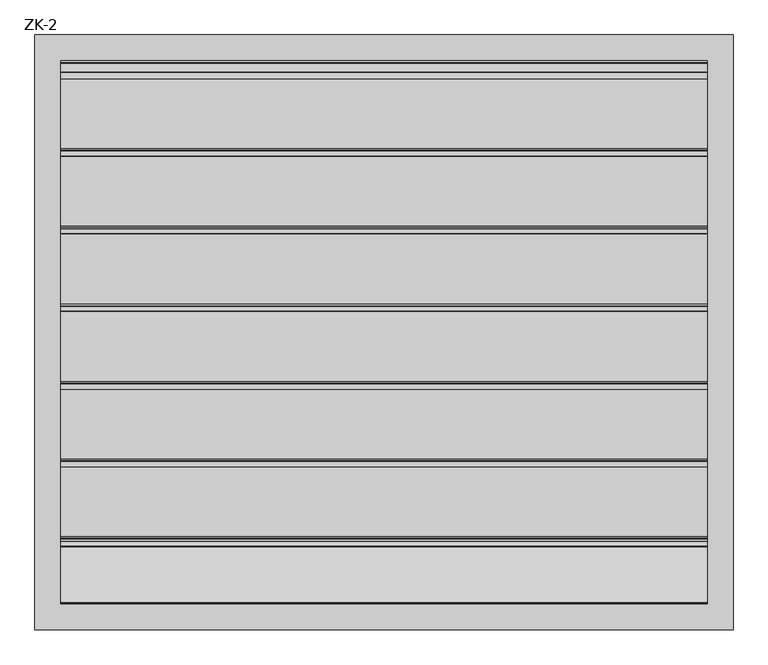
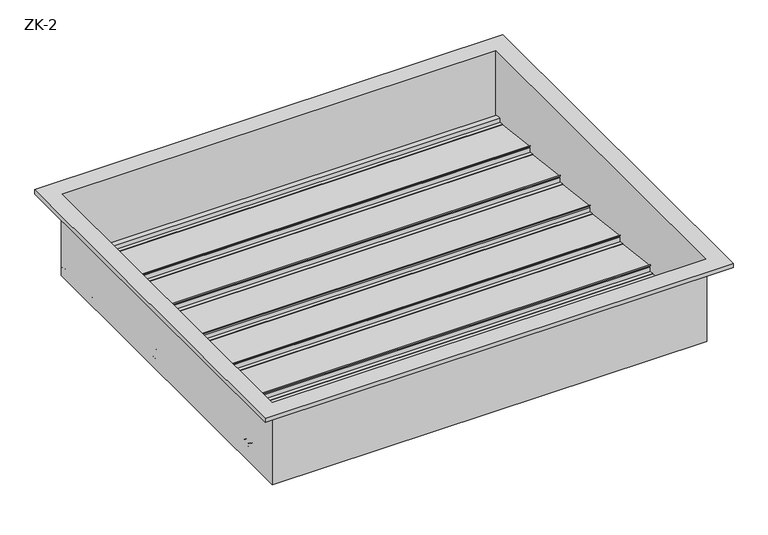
"""IFC4 building model written with IfcOpenShell, lengths in millimetres: damper geometry, AIR_FB_Self-closing valves ZK-2_SMA : ZK-2."""

from ifc_helpers import new_model, si_unit, point, frame, frame_2d, origin, place, context, project, spatial, polyline, circle_curve, trimmed, segment, composite_curve, outline, extrude, faceted_brep, source, transform, mapped, element, save


def zk_2_b9b7aa7c(model_context):
    return source(origin(), model_context, "Body", "SolidModel", [
        extrude(outline(polyline([(-318.6299845, -137.349134), (-315.4518824, -140.6401551), (-207.8934535, -153.8466696), (-207.7758121, -152.6521024), (-197.8050506, -153.8763579), (-196.5863571, -143.9508964), (-183.6832571, -145.5351979), (-184.9019506, -155.4606594), (-182.9621583, -155.6988359), (-183.1280076, -165.2003323), (-180.0, -168.439479), (-180.8632078, -169.273069), (-184.3364996, -165.67637), (-184.177381, -156.560471), (-184.3475946, -157.9467493), (-316.0199005, -141.7794231), (-319.4931923, -138.1827241), (-318.6299845, -137.349134)])), frame((-500.0, 0.0, 0.0), z_axis=(1.0, 0.0, 0.0), x_axis=(0.0, 1.0, 0.0)), (0.0, 0.0, 1.0), 1000.0),
        extrude(outline(composite_curve([segment(trimmed(circle_curve(frame_2d((-188.9759907, -164.0)), 3.5), [point((-188.9759907, -160.5))], [point((-188.9759907, -167.5))], False, "CARTESIAN"), True, "CONTINUOUS"), segment(trimmed(circle_curve(frame_2d((-188.9759907, -164.0)), 3.5), [point((-188.9759907, -167.5))], [point((-188.9759907, -160.5))], False, "CARTESIAN"), True, "CONTINUOUS")], self_intersect=False)), frame((-500.0, 0.0, 0.0), z_axis=(1.0, 0.0, 0.0), x_axis=(0.0, 1.0, 0.0)), (0.0, 0.0, 1.0), 1000.0),
        extrude(outline(polyline([(-198.6299845, -137.349134), (-195.4518824, -140.6401551), (-87.8934535, -153.8466696), (-87.7758121, -152.6521024), (-77.8050506, -153.8763579), (-76.5863571, -143.9508964), (-63.6832571, -145.5351979), (-64.9019506, -155.4606594), (-62.9621583, -155.6988359), (-63.1280076, -165.2003323), (-60.0, -168.439479), (-60.8632078, -169.273069), (-64.3364996, -165.67637), (-64.177381, -156.560471), (-64.3475946, -157.9467493), (-196.0199005, -141.7794231), (-199.4931923, -138.1827241), (-198.6299845, -137.349134)])), frame((-500.0, 0.0, 0.0), z_axis=(1.0, 0.0, 0.0), x_axis=(0.0, 1.0, 0.0)), (0.0, 0.0, 1.0), 1000.0),
        extrude(outline(composite_curve([segment(trimmed(circle_curve(frame_2d((-68.9759907, -164.0)), 3.5), [point((-68.9759907, -160.5))], [point((-68.9759907, -167.5))], False, "CARTESIAN"), True, "CONTINUOUS"), segment(trimmed(circle_curve(frame_2d((-68.9759907, -164.0)), 3.5), [point((-68.9759907, -167.5))], [point((-68.9759907, -160.5))], False, "CARTESIAN"), True, "CONTINUOUS")], self_intersect=False)), frame((-500.0, 0.0, 0.0), z_axis=(1.0, 0.0, 0.0), x_axis=(0.0, 1.0, 0.0)), (0.0, 0.0, 1.0), 1000.0),
        extrude(outline(polyline([(-78.6299845, -137.349134), (-75.4518824, -140.6401551), (32.1065465, -153.8466696), (32.2241879, -152.6521024), (42.1949494, -153.8763579), (43.4136429, -143.9508964), (56.3167429, -145.5351979), (55.0980494, -155.4606594), (57.0378417, -155.6988359), (56.8719924, -165.2003323), (60.0, -168.439479), (59.1367922, -169.273069), (55.6635004, -165.67637), (55.822619, -156.560471), (55.6524054, -157.9467493), (-76.0199005, -141.7794231), (-79.4931923, -138.1827241), (-78.6299845, -137.349134)])), frame((-500.0, 0.0, 0.0), z_axis=(1.0, 0.0, 0.0), x_axis=(0.0, 1.0, 0.0)), (0.0, 0.0, 1.0), 1000.0),
        extrude(outline(composite_curve([segment(trimmed(circle_curve(frame_2d((51.0240093, -164.0)), 3.5), [point((51.0240093, -160.5))], [point((51.0240093, -167.5))], False, "CARTESIAN"), True, "CONTINUOUS"), segment(trimmed(circle_curve(frame_2d((51.0240093, -164.0)), 3.5), [point((51.0240093, -167.5))], [point((51.0240093, -160.5))], False, "CARTESIAN"), True, "CONTINUOUS")], self_intersect=False)), frame((-500.0, 0.0, 0.0), z_axis=(1.0, 0.0, 0.0), x_axis=(0.0, 1.0, 0.0)), (0.0, 0.0, 1.0), 1000.0),
        extrude(outline(polyline([(41.3700155, -137.349134), (44.5481176, -140.6401551), (152.1065465, -153.8466696), (152.2241879, -152.6521024), (162.1949494, -153.8763579), (163.4136429, -143.9508964), (176.3167429, -145.5351979), (175.0980494, -155.4606594), (177.0378417, -155.6988359), (176.8719924, -165.2003323), (180.0, -168.439479), (179.1367922, -169.273069), (175.6635004, -165.67637), (175.822619, -156.560471), (175.6524054, -157.9467493), (43.9800995, -141.7794231), (40.5068077, -138.1827241), (41.3700155, -137.349134)])), frame((-500.0, 0.0, 0.0), z_axis=(1.0, 0.0, 0.0), x_axis=(0.0, 1.0, 0.0)), (0.0, 0.0, 1.0), 1000.0),
        extrude(outline(composite_curve([segment(trimmed(circle_curve(frame_2d((171.0240093, -164.0)), 3.5), [point((171.0240093, -160.5))], [point((171.0240093, -167.5))], False, "CARTESIAN"), True, "CONTINUOUS"), segment(trimmed(circle_curve(frame_2d((171.0240093, -164.0)), 3.5), [point((171.0240093, -167.5))], [point((171.0240093, -160.5))], False, "CARTESIAN"), True, "CONTINUOUS")], self_intersect=False)), frame((-500.0, 0.0, 0.0), z_axis=(1.0, 0.0, 0.0), x_axis=(0.0, 1.0, 0.0)), (0.0, 0.0, 1.0), 1000.0),
        extrude(outline(polyline([(161.3700155, -137.349134), (164.5481176, -140.6401551), (272.1065465, -153.8466696), (272.2241879, -152.6521024), (282.1949494, -153.8763579), (283.4136429, -143.9508964), (296.3167429, -145.5351979), (295.0980494, -155.4606594), (297.0378417, -155.6988359), (296.8719924, -165.2003323), (300.0, -168.439479), (299.1367922, -169.273069), (295.6635004, -165.67637), (295.822619, -156.560471), (295.6524054, -157.9467493), (163.9800995, -141.7794231), (160.5068077, -138.1827241), (161.3700155, -137.349134)])), frame((-500.0, 0.0, 0.0), z_axis=(1.0, 0.0, 0.0), x_axis=(0.0, 1.0, 0.0)), (0.0, 0.0, 1.0), 1000.0),
        extrude(outline(composite_curve([segment(trimmed(circle_curve(frame_2d((291.0240093, -164.0)), 3.5), [point((291.0240093, -160.5))], [point((291.0240093, -167.5))], False, "CARTESIAN"), True, "CONTINUOUS"), segment(trimmed(circle_curve(frame_2d((291.0240093, -164.0)), 3.5), [point((291.0240093, -167.5))], [point((291.0240093, -160.5))], False, "CARTESIAN"), True, "CONTINUOUS")], self_intersect=False)), frame((-500.0, 0.0, 0.0), z_axis=(1.0, 0.0, 0.0), x_axis=(0.0, 1.0, 0.0)), (0.0, 0.0, 1.0), 1000.0),
        extrude(outline(polyline([(281.3700155, -137.349134), (284.5481176, -140.6401551), (392.1065465, -153.8466696), (392.2241879, -152.6521024), (402.1949494, -153.8763579), (403.4136429, -143.9508964), (416.3167429, -145.5351979), (415.0980494, -155.4606594), (417.0378417, -155.6988359), (416.8719924, -165.2003323), (420.0, -168.439479), (419.1367922, -169.273069), (415.6635004, -165.67637), (415.822619, -156.560471), (415.6524054, -157.9467493), (283.9800995, -141.7794231), (280.5068077, -138.1827241), (281.3700155, -137.349134)])), frame((-500.0, 0.0, 0.0), z_axis=(1.0, 0.0, 0.0), x_axis=(0.0, 1.0, 0.0)), (0.0, 0.0, 1.0), 1000.0),
        extrude(outline(composite_curve([segment(trimmed(circle_curve(frame_2d((411.0240093, -164.0)), 3.5), [point((411.0240093, -160.5))], [point((411.0240093, -167.5))], False, "CARTESIAN"), True, "CONTINUOUS"), segment(trimmed(circle_curve(frame_2d((411.0240093, -164.0)), 3.5), [point((411.0240093, -167.5))], [point((411.0240093, -160.5))], False, "CARTESIAN"), True, "CONTINUOUS")], self_intersect=False)), frame((-500.0, 0.0, 0.0), z_axis=(1.0, 0.0, 0.0), x_axis=(0.0, 1.0, 0.0)), (0.0, 0.0, 1.0), 1000.0),
        extrude(outline(polyline([(-418.8323819, -71.8369003), (-417.7767257, -76.2885003), (-331.9877628, -142.4963661), (-331.2774185, -141.5287705), (-323.3247057, -147.6662982), (-317.2150625, -139.7497169), (-306.9235068, -147.6922531), (-313.03315, -155.6088344), (-311.4859652, -156.8028785), (-316.4737428, -164.891637), (-315.4347263, -169.273069), (-316.6023444, -169.549959), (-317.7560525, -164.6848837), (-312.9706928, -156.9243897), (-313.82402, -158.0300899), (-418.8462919, -76.9788655), (-420.0, -72.1137902), (-418.8323819, -71.8369003)])), frame((-500.0, 0.0, 0.0), z_axis=(1.0, 0.0, 0.0), x_axis=(0.0, 1.0, 0.0)), (0.0, 0.0, 1.0), 1000.0),
        extrude(outline(composite_curve([segment(trimmed(circle_curve(frame_2d((-320.8921788, -160.8770226)), 3.5), [point((-319.1074188, -157.8662699))], [point((-322.6769388, -163.8877753))], False, "CARTESIAN"), True, "CONTINUOUS"), segment(trimmed(circle_curve(frame_2d((-320.8921788, -160.8770226)), 3.5), [point((-322.6769388, -163.8877753))], [point((-319.1074188, -157.8662699))], False, "CARTESIAN"), True, "CONTINUOUS")], self_intersect=False)), frame((-500.0, 0.0, 0.0), z_axis=(1.0, 0.0, 0.0), x_axis=(0.0, 1.0, 0.0)), (0.0, 0.0, 1.0), 1000.0),
        faceted_brep([(540.000463, 460.000463, 0.0), (540.000463, 460.000463, 10.5), (540.000463, -460.000463, 10.5), (540.000463, -460.000463, 0.0), (538.500463, 458.500463, 9.0), (538.500463, 458.500463, 0.0), (538.500463, -458.500463, 0.0), (538.500463, -458.500463, 9.0), (501.500463, 421.500463, -189.5), (501.500463, 421.500463, 9.0), (501.500463, -421.500463, 9.0), (501.500463, -421.500463, -189.5), (489.500463, 409.500463, -188.0), (489.500463, 409.500463, -189.5), (489.500463, -409.500463, -189.5), (489.500463, -409.500463, -188.0), (500.000463, 420.000463, 10.5), (500.000463, 420.000463, -188.0), (500.000463, -420.000463, -188.0), (500.000463, -420.000463, 10.5), (-540.000463, -460.000463, 10.5), (-540.000463, -460.000463, 0.0), (-538.500463, -458.500463, 0.0), (-538.500463, -458.500463, 9.0), (-501.500463, -421.500463, 9.0), (-501.500463, -421.500463, -189.5), (-489.500463, -409.500463, -189.5), (-489.500463, -409.500463, -188.0), (-500.000463, -420.000463, -188.0), (-500.000463, -420.000463, 10.5), (-540.000463, 460.000463, 10.5), (-540.000463, 460.000463, 0.0), (-538.500463, 458.500463, 0.0), (-538.500463, 458.500463, 9.0), (-501.500463, 421.500463, 9.0), (-501.500463, 421.500463, -189.5), (-489.500463, 409.500463, -189.5), (-489.500463, 409.500463, -188.0), (-500.000463, 420.000463, -188.0), (-500.000463, 420.000463, 10.5)], [[[0, 1, 2, 3]], [[4, 5, 6, 7]], [[8, 9, 10, 11]], [[12, 13, 14, 15]], [[16, 17, 18, 19]], [[3, 2, 20, 21]], [[7, 6, 22, 23]], [[11, 10, 24, 25]], [[15, 14, 26, 27]], [[19, 18, 28, 29]], [[21, 20, 30, 31]], [[23, 22, 32, 33]], [[25, 24, 34, 35]], [[27, 26, 36, 37]], [[29, 28, 38, 39]], [[1, 30, 20, 2], [19, 29, 39, 16]], [[31, 30, 1, 0]], [[3, 21, 31, 0], [5, 32, 22, 6]], [[33, 32, 5, 4]], [[7, 23, 33, 4], [9, 34, 24, 10]], [[35, 34, 9, 8]], [[11, 25, 35, 8], [13, 36, 26, 14]], [[37, 36, 13, 12]], [[17, 38, 28, 18], [15, 27, 37, 12]], [[39, 38, 17, 16]]]),
    ])


if __name__ == "__main__":
    model = new_model("IFC4")
    model_context = context("Model", 3, world=origin())
    ifc_project = project(units=[si_unit("LENGTHUNIT", "METRE", prefix="MILLI")], contexts=[model_context])
    site = spatial("IfcSite", under=ifc_project)
    building = spatial("IfcBuilding", under=site)
    placement = place(None, origin())
    zk_2_shape = zk_2_b9b7aa7c(model_context)
    element("IfcDamper", 1, ObjectType="AIR_FB_Self-closing valves ZK-2_SMA : ZK-2", at=placement, inside=building, context=model_context, shape_type="MappedRepresentation", body=[
        mapped(zk_2_shape, transform((0.0, 0.0, 0.0), x_axis=(1.0, 0.0, 0.0), y_axis=(0.0, 1.0, 0.0), z_axis=(0.0, 0.0, 1.0))),
    ])
    save(model, "model.ifc")
